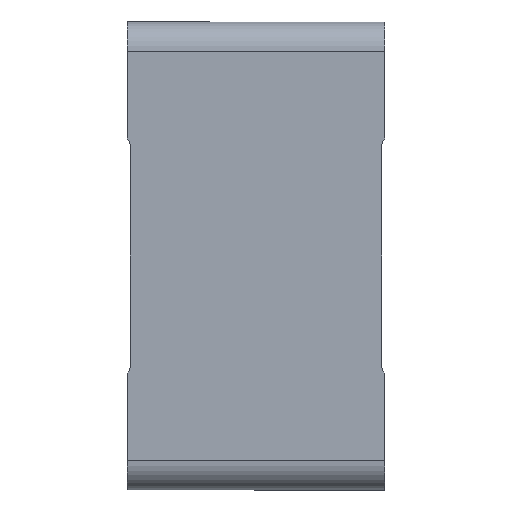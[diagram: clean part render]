
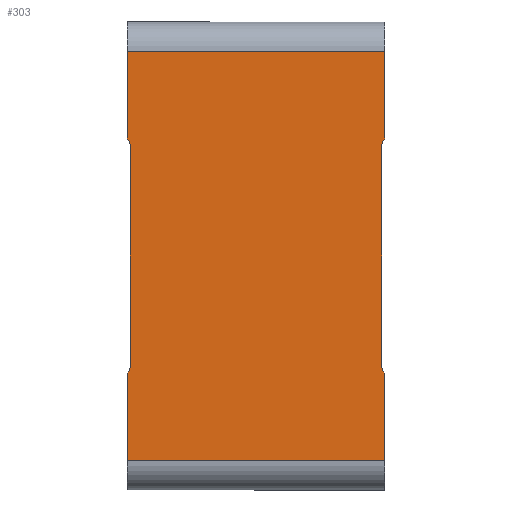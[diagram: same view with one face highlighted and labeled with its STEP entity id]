
A CAD part, left-side view. The second image highlights one B-rep face of the part: STEP entity #303.
In plain terms, the highlighted planar face has unit normal (-1, 0, 0).
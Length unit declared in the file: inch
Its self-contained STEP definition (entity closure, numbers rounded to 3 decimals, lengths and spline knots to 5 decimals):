
#6 = LINE ( 'NONE', #733, #1427 ) ;
#40 = CARTESIAN_POINT ( 'NONE',  ( -1.5, 0., -1.3125 ) ) ;
#62 = CARTESIAN_POINT ( 'NONE',  ( -1.5, 1.65, -1.3125 ) ) ;
#115 = CARTESIAN_POINT ( 'NONE',  ( -1.5, 0.02, -1.3125 ) ) ;
#141 = CARTESIAN_POINT ( 'NONE',  ( -1.5, 1.63, -0.70528 ) ) ;
#190 = AXIS2_PLACEMENT_3D ( 'NONE', #411, #2147, #880 ) ;
#220 = EDGE_CURVE ( 'NONE', #2493, #316, #1751, .T. ) ;
#240 = CARTESIAN_POINT ( 'NONE',  ( -1.5, 0., 0.75 ) ) ;
#303 = ADVANCED_FACE ( 'NONE', ( #2964 ), #2865, .F. ) ;
#316 = VERTEX_POINT ( 'NONE', #2873 ) ;
#321 = DIRECTION ( 'NONE',  ( 0., 0., -1. ) ) ;
#344 = EDGE_LOOP ( 'NONE', ( #1672, #2578, #1951, #1214, #2065, #3236, #2416, #1305, #774, #1515, #2406, #1763 ) ) ;
#397 = CARTESIAN_POINT ( 'NONE',  ( -1.5, 1.63, 0.70528 ) ) ;
#411 = CARTESIAN_POINT ( 'NONE',  ( -1.5, 1.69, 0.70528 ) ) ;
#437 = EDGE_CURVE ( 'NONE', #770, #1595, #1509, .T. ) ;
#484 = VERTEX_POINT ( 'NONE', #397 ) ;
#537 = CARTESIAN_POINT ( 'NONE',  ( -1.5, 1.65, -1.3125 ) ) ;
#575 = EDGE_CURVE ( 'NONE', #2143, #615, #2456, .T. ) ;
#615 = VERTEX_POINT ( 'NONE', #1231 ) ;
#659 = EDGE_CURVE ( 'NONE', #3092, #1362, #2891, .T. ) ;
#717 = CARTESIAN_POINT ( 'NONE',  ( -1.5, 1.65, 1.3125 ) ) ;
#733 = CARTESIAN_POINT ( 'NONE',  ( -1.5, 1.65, 1.3125 ) ) ;
#770 = VERTEX_POINT ( 'NONE', #2609 ) ;
#774 = ORIENTED_EDGE ( 'NONE', *, *, #1690, .T. ) ;
#880 = DIRECTION ( 'NONE',  ( 0., 0., 1. ) ) ;
#890 = CARTESIAN_POINT ( 'NONE',  ( -1.5, 0.02, -0.70528 ) ) ;
#981 = DIRECTION ( 'NONE',  ( 0., 0., 1. ) ) ;
#989 = AXIS2_PLACEMENT_3D ( 'NONE', #2063, #1105, #2624 ) ;
#1020 = DIRECTION ( 'NONE',  ( 0., -1., 0. ) ) ;
#1031 = VECTOR ( 'NONE', #2780, 39.37008 ) ;
#1072 = DIRECTION ( 'NONE',  ( 1., 0., 0. ) ) ;
#1105 = DIRECTION ( 'NONE',  ( -1., 0., 0. ) ) ;
#1127 = EDGE_CURVE ( 'NONE', #484, #2143, #1314, .T. ) ;
#1134 = DIRECTION ( 'NONE',  ( 1., 0., 0. ) ) ;
#1142 = CARTESIAN_POINT ( 'NONE',  ( -1.5, -0.04, -0.70528 ) ) ;
#1195 = DIRECTION ( 'NONE',  ( 0., 0., -1. ) ) ;
#1205 = EDGE_CURVE ( 'NONE', #770, #1569, #3074, .T. ) ;
#1214 = ORIENTED_EDGE ( 'NONE', *, *, #659, .T. ) ;
#1231 = CARTESIAN_POINT ( 'NONE',  ( -1.5, 1.65, 1.3125 ) ) ;
#1305 = ORIENTED_EDGE ( 'NONE', *, *, #1127, .F. ) ;
#1314 = CIRCLE ( 'NONE', #190, 0.06 ) ;
#1362 = VERTEX_POINT ( 'NONE', #240 ) ;
#1392 = CIRCLE ( 'NONE', #989, 0.06 ) ;
#1424 = AXIS2_PLACEMENT_3D ( 'NONE', #1142, #1134, #2145 ) ;
#1427 = VECTOR ( 'NONE', #1020, 39.37008 ) ;
#1448 = EDGE_CURVE ( 'NONE', #316, #1583, #1392, .T. ) ;
#1509 = CIRCLE ( 'NONE', #1424, 0.06 ) ;
#1515 = ORIENTED_EDGE ( 'NONE', *, *, #1448, .F. ) ;
#1527 = CARTESIAN_POINT ( 'NONE',  ( -1.5, 1.65, 1.3125 ) ) ;
#1569 = VERTEX_POINT ( 'NONE', #2196 ) ;
#1583 = VERTEX_POINT ( 'NONE', #141 ) ;
#1595 = VERTEX_POINT ( 'NONE', #890 ) ;
#1622 = VECTOR ( 'NONE', #2106, 39.37008 ) ;
#1665 = CARTESIAN_POINT ( 'NONE',  ( -1.5, 0.02, 0.70528 ) ) ;
#1672 = ORIENTED_EDGE ( 'NONE', *, *, #1205, .F. ) ;
#1690 = EDGE_CURVE ( 'NONE', #484, #1583, #3032, .T. ) ;
#1712 = VECTOR ( 'NONE', #2244, 39.37008 ) ;
#1751 = LINE ( 'NONE', #1527, #1031 ) ;
#1763 = ORIENTED_EDGE ( 'NONE', *, *, #3253, .F. ) ;
#1785 = CARTESIAN_POINT ( 'NONE',  ( -1.5, 1.65, 0.75 ) ) ;
#1792 = LINE ( 'NONE', #40, #1622 ) ;
#1793 = EDGE_CURVE ( 'NONE', #615, #2154, #6, .T. ) ;
#1943 = LINE ( 'NONE', #2979, #2105 ) ;
#1948 = CARTESIAN_POINT ( 'NONE',  ( -1.5, 1.63, 0. ) ) ;
#1951 = ORIENTED_EDGE ( 'NONE', *, *, #2621, .F. ) ;
#1987 = EDGE_CURVE ( 'NONE', #2154, #1362, #1792, .T. ) ;
#2063 = CARTESIAN_POINT ( 'NONE',  ( -1.5, 1.69, -0.70528 ) ) ;
#2065 = ORIENTED_EDGE ( 'NONE', *, *, #1987, .F. ) ;
#2075 = VECTOR ( 'NONE', #2428, 39.37008 ) ;
#2082 = VECTOR ( 'NONE', #1195, 39.37008 ) ;
#2105 = VECTOR ( 'NONE', #2472, 39.37008 ) ;
#2106 = DIRECTION ( 'NONE',  ( 0., 0., -1. ) ) ;
#2143 = VERTEX_POINT ( 'NONE', #1785 ) ;
#2145 = DIRECTION ( 'NONE',  ( 0., 0., 1. ) ) ;
#2147 = DIRECTION ( 'NONE',  ( -1., 0., 0. ) ) ;
#2154 = VERTEX_POINT ( 'NONE', #2602 ) ;
#2189 = LINE ( 'NONE', #115, #2075 ) ;
#2196 = CARTESIAN_POINT ( 'NONE',  ( -1.5, 0., -1.3125 ) ) ;
#2244 = DIRECTION ( 'NONE',  ( 0., 0., -1. ) ) ;
#2247 = AXIS2_PLACEMENT_3D ( 'NONE', #2802, #2272, #2559 ) ;
#2272 = DIRECTION ( 'NONE',  ( 1., 0., 0. ) ) ;
#2406 = ORIENTED_EDGE ( 'NONE', *, *, #220, .F. ) ;
#2416 = ORIENTED_EDGE ( 'NONE', *, *, #575, .F. ) ;
#2428 = DIRECTION ( 'NONE',  ( 0., 0., -1. ) ) ;
#2456 = LINE ( 'NONE', #717, #2565 ) ;
#2472 = DIRECTION ( 'NONE',  ( 0., 1., 0. ) ) ;
#2493 = VERTEX_POINT ( 'NONE', #62 ) ;
#2559 = DIRECTION ( 'NONE',  ( 0., 0., -1. ) ) ;
#2565 = VECTOR ( 'NONE', #981, 39.37008 ) ;
#2578 = ORIENTED_EDGE ( 'NONE', *, *, #437, .T. ) ;
#2602 = CARTESIAN_POINT ( 'NONE',  ( -1.5, 0., 1.3125 ) ) ;
#2609 = CARTESIAN_POINT ( 'NONE',  ( -1.5, 0., -0.75 ) ) ;
#2621 = EDGE_CURVE ( 'NONE', #3092, #1595, #2189, .T. ) ;
#2624 = DIRECTION ( 'NONE',  ( 0., 0., -1. ) ) ;
#2780 = DIRECTION ( 'NONE',  ( 0., 0., 1. ) ) ;
#2802 = CARTESIAN_POINT ( 'NONE',  ( -1.5, -0.04, 0.70528 ) ) ;
#2865 = PLANE ( 'NONE',  #3097 ) ;
#2873 = CARTESIAN_POINT ( 'NONE',  ( -1.5, 1.65, -0.75 ) ) ;
#2891 = CIRCLE ( 'NONE', #2247, 0.06 ) ;
#2964 = FACE_OUTER_BOUND ( 'NONE', #344, .T. ) ;
#2979 = CARTESIAN_POINT ( 'NONE',  ( -1.5, 1.65, -1.3125 ) ) ;
#3032 = LINE ( 'NONE', #1948, #2082 ) ;
#3074 = LINE ( 'NONE', #3240, #1712 ) ;
#3092 = VERTEX_POINT ( 'NONE', #1665 ) ;
#3097 = AXIS2_PLACEMENT_3D ( 'NONE', #537, #1072, #321 ) ;
#3236 = ORIENTED_EDGE ( 'NONE', *, *, #1793, .F. ) ;
#3240 = CARTESIAN_POINT ( 'NONE',  ( -1.5, 0., -1.3125 ) ) ;
#3253 = EDGE_CURVE ( 'NONE', #1569, #2493, #1943, .T. ) ;
